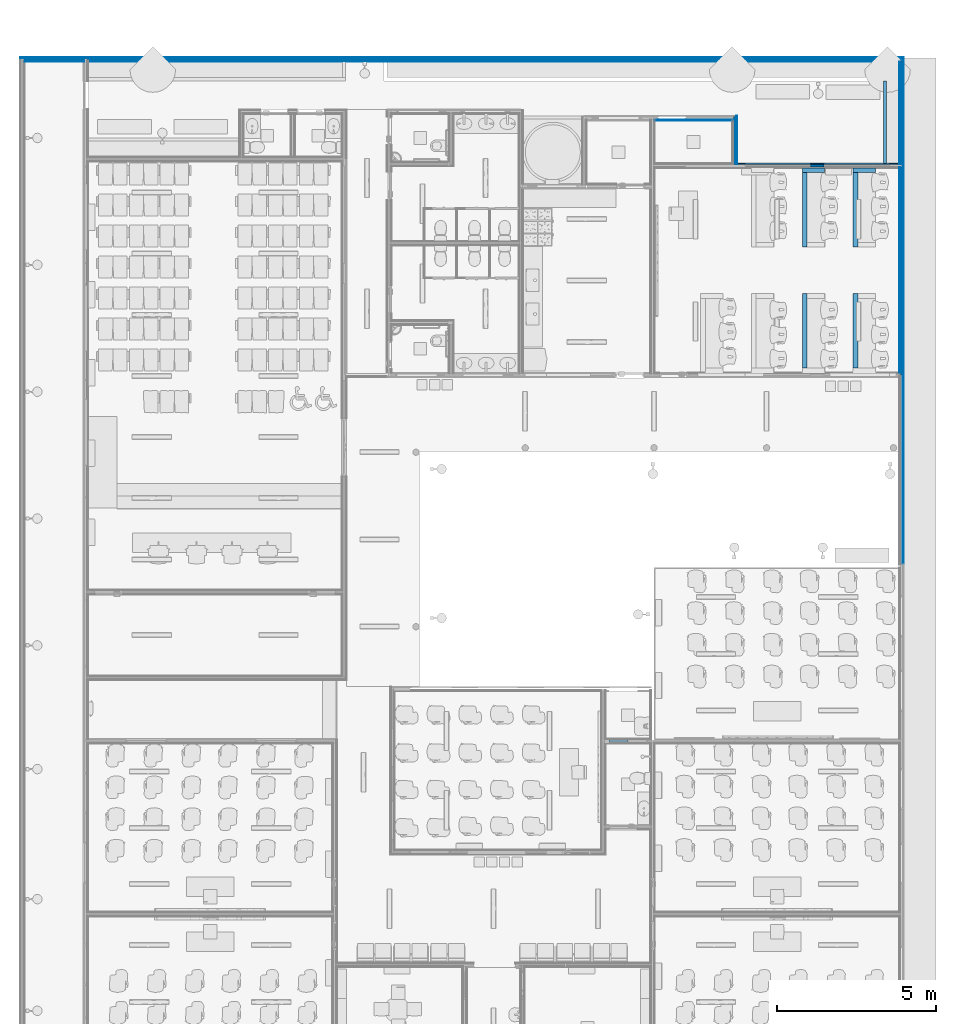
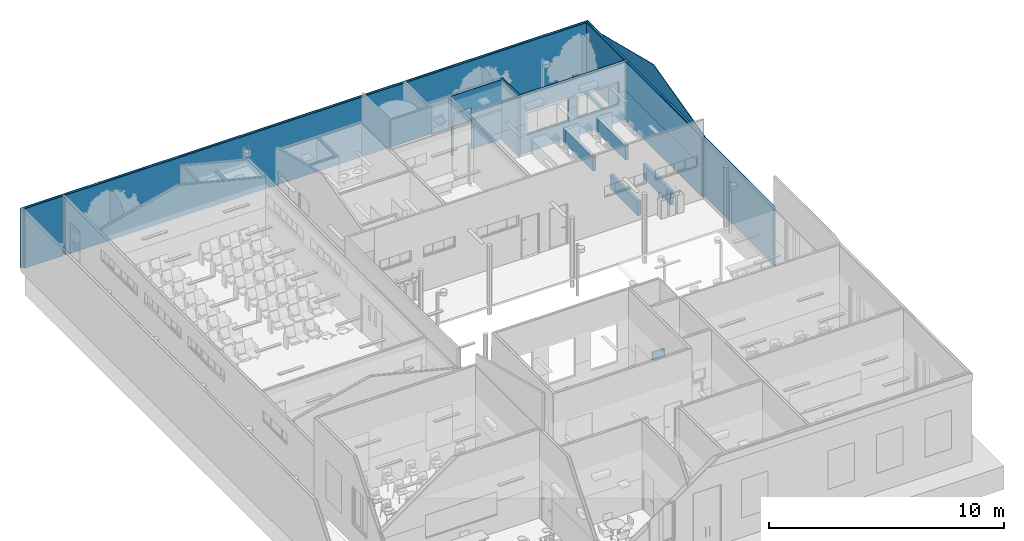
# One storey, part 45 of 155: 26 walls, 18 openings.
"""IFC2X3 building model written with IfcOpenShell, lengths in metres."""

from ifc_helpers import new_model, entity, si_unit, converted_unit, derived_unit, direction, frame, frame_2d, origin, place, context, subcontext, project, spatial, polyline, rectangle, extrude, clip, bounded_halfspace, material, layer, layer_set, layer_usage, type_object, element, save


model = new_model("IFC2X3")

# Units and contexts
model_context = context("Model", 3, precision=1e-05, world=origin(), true_north=direction((6.12303176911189e-17, 1.0)))
body_context = subcontext(model_context, "Body", "Model", "MODEL_VIEW")
ifc_project = project(units=[si_unit("LENGTHUNIT", "METRE"), si_unit("AREAUNIT", "SQUARE_METRE"), si_unit("VOLUMEUNIT", "CUBIC_METRE"), converted_unit("PLANEANGLEUNIT", "DEGREE", entity("IfcRatioMeasure", 0.0174532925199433), si_unit("PLANEANGLEUNIT", "RADIAN"), dimensions=[0, 0, 0, 0, 0, 0, 0]), si_unit("MASSUNIT", "GRAM", prefix="KILO"), derived_unit("MASSDENSITYUNIT", [(si_unit("MASSUNIT", "GRAM", prefix="KILO"), 1), (si_unit("LENGTHUNIT", "METRE"), -3)]), si_unit("TIMEUNIT", "SECOND"), si_unit("FREQUENCYUNIT", "HERTZ"), si_unit("THERMODYNAMICTEMPERATUREUNIT", "DEGREE_CELSIUS"), derived_unit("THERMALTRANSMITTANCEUNIT", [(si_unit("MASSUNIT", "GRAM", prefix="KILO"), 1), (si_unit("THERMODYNAMICTEMPERATUREUNIT", "KELVIN"), -1), (si_unit("TIMEUNIT", "SECOND"), -3)]), derived_unit("VOLUMETRICFLOWRATEUNIT", [(si_unit("LENGTHUNIT", "METRE"), 3), (si_unit("TIMEUNIT", "SECOND"), -1)]), si_unit("ELECTRICCURRENTUNIT", "AMPERE"), si_unit("ELECTRICVOLTAGEUNIT", "VOLT"), si_unit("POWERUNIT", "WATT"), si_unit("FORCEUNIT", "NEWTON", prefix="KILO"), si_unit("ILLUMINANCEUNIT", "LUX"), si_unit("LUMINOUSFLUXUNIT", "LUMEN"), si_unit("LUMINOUSINTENSITYUNIT", "CANDELA"), derived_unit("USERDEFINED", [(si_unit("MASSUNIT", "GRAM", prefix="KILO"), -1), (si_unit("LENGTHUNIT", "METRE"), -2), (si_unit("TIMEUNIT", "SECOND"), 3), (si_unit("LUMINOUSFLUXUNIT", "LUMEN"), 1)]), derived_unit("LINEARVELOCITYUNIT", [(si_unit("LENGTHUNIT", "METRE"), 1), (si_unit("TIMEUNIT", "SECOND"), -1)]), si_unit("PRESSUREUNIT", "PASCAL"), derived_unit("USERDEFINED", [(si_unit("LENGTHUNIT", "METRE"), -2), (si_unit("MASSUNIT", "GRAM", prefix="KILO"), 1), (si_unit("TIMEUNIT", "SECOND"), -2)])], contexts=[model_context])

# Site, building, storey
site_placement = place(None, frame((26.9889013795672, -17.5624287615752, 0.0)))
site = spatial("IfcSite", under=ifc_project, at=site_placement, Name="Default", CompositionType="ELEMENT")
building_placement = place(site_placement, origin())
building = spatial("IfcBuilding", under=site, at=building_placement, Name="C. C. L. Monsenhor Antônio Sampaio", CompositionType="ELEMENT")
storey_placement = place(building_placement, frame((0.0, 0.0, 1.19999999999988)))
storey = spatial("IfcBuildingStorey", under=building, at=storey_placement, Name="Nível 1.2", CompositionType="ELEMENT", Elevation=1.19999999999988)

# Wall
ifc_material_1 = material(Name="ALVENARIA")
ifc_layer_1 = layer(ifc_material_1, 0.09)
ifc_layer_set_1 = layer_set([ifc_layer_1], Name="Parede básica:ENucleo parede 15cm")
ifc_layer_usage_1 = layer_usage(ifc_layer_set_1, "AXIS2", "POSITIVE", -0.045)
wall_type_1 = type_object("IfcWallType", Name="Parede básica:ENucleo parede 15cm", PredefinedType="STANDARD", material=ifc_layer_set_1)
wall_1_placement = place(storey_placement, frame((-14.020552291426, -6.87806634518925, 0.0)))
element("IfcWallStandardCase", 1, at=wall_1_placement, inside=storey, type_object=wall_type_1, material=ifc_layer_usage_1, Name="Parede básica:ENucleo parede 15cm", ObjectType="Parede básica:ENucleo parede 15cm", context=body_context, shape_type="SweptSolid", body=[
    extrude(rectangle(XDim=25.7199999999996, YDim=0.089999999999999, at=frame_2d((12.8599999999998, 0.0), x_axis=(-1.0, 0.0))), origin(), (0.0, 0.0, 1.0), 3.10000000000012),
])

# Wall, openings
ifc_layer_usage_2 = layer_usage(ifc_layer_set_1, "AXIS2", "NEGATIVE", 0.045)
wall_2_placement = place(storey_placement, frame((11.6544477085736, -10.2730663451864, 0.0), z_axis=(0.0, 0.0, 1.0), x_axis=(0.0, -1.0, 0.0)))
wall_2 = element("IfcWallStandardCase", 2, at=wall_2_placement, inside=storey, type_object=wall_type_1, material=ifc_layer_usage_2, Name="Parede básica:ENucleo parede 15cm", ObjectType="Parede básica:ENucleo parede 15cm", context=body_context, shape_type="SweptSolid", body=[
    extrude(rectangle(XDim=6.5550000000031, YDim=0.0900000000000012, at=frame_2d((3.27750000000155, 3.81639164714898e-17), x_axis=(-1.0, 0.0))), origin(), (0.0, 0.0, 1.0), 3.10000000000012),
])
opening_1_placement = place(wall_2_placement, origin())
element("IfcOpeningElement", 3, at=opening_1_placement, cuts=wall_2, Name="Parede básica:ENucleo parede 15cm", ObjectType="Opening", context=body_context, shape_type="SweptSolid", body=[
    extrude(rectangle(XDim=2.0, YDim=1.30000000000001, at=frame_2d((1.66533453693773e-16, 0.0), x_axis=(1.0, 0.0))), frame((16.5099999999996, -1.56899999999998, 2.0), z_axis=(0.0, 1.0, 0.0), x_axis=(0.0, 0.0, 1.0)), (0.0, 0.0, 1.0), 3.048),
])
opening_2_placement = place(wall_2_placement, origin())
element("IfcOpeningElement", 4, at=opening_2_placement, cuts=wall_2, Name="Parede básica:ENucleo parede 15cm", ObjectType="Opening", context=body_context, shape_type="SweptSolid", body=[
    extrude(rectangle(XDim=2.0, YDim=1.30000000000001, at=frame_2d((1.66533453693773e-16, 0.0), x_axis=(1.0, 0.0))), frame((14.1599999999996, -1.56899999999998, 2.0), z_axis=(0.0, 1.0, 0.0), x_axis=(0.0, 0.0, 1.0)), (0.0, 0.0, 1.0), 3.048),
])

ifc_layer_usage_3 = layer_usage(ifc_layer_set_1, "AXIS2", "NEGATIVE", 0.045)
wall_3_placement = place(storey_placement, frame((11.6544477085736, -10.1830663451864, 0.0), z_axis=(0.0, 0.0, 1.0), x_axis=(0.0, 1.0, 0.0)))
wall_3 = element("IfcWallStandardCase", 5, at=wall_3_placement, inside=storey, type_object=wall_type_1, material=ifc_layer_usage_3, Name="Parede básica:ENucleo parede 15cm", ObjectType="Parede básica:ENucleo parede 15cm", context=body_context, shape_type="SweptSolid", body=[
    extrude(rectangle(XDim=3.25999999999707, YDim=0.0900000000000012, at=frame_2d((1.62999999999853, 0.0), x_axis=(-1.0, 0.0))), origin(), (0.0, 0.0, 1.0), 3.10000000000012),
])
opening_3_placement = place(wall_3_placement, origin())
element("IfcOpeningElement", 6, at=opening_3_placement, cuts=wall_3, Name="Parede básica:ENucleo parede 15cm", ObjectType="Opening", context=body_context, shape_type="SweptSolid", body=[
    extrude(rectangle(XDim=2.0, YDim=1.30000000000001, at=frame_2d((0.0, -3.88578058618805e-16), x_axis=(0.0, 1.0))), frame((-16.5999999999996, -1.47900000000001, 2.0), z_axis=(0.0, 1.0, 0.0), x_axis=(-1.0, 0.0, 0.0)), (0.0, 0.0, 1.0), 3.048),
])
opening_4_placement = place(wall_3_placement, origin())
element("IfcOpeningElement", 7, at=opening_4_placement, cuts=wall_3, Name="Parede básica:ENucleo parede 15cm", ObjectType="Opening", context=body_context, shape_type="SweptSolid", body=[
    extrude(rectangle(XDim=2.0, YDim=1.30000000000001, at=frame_2d((0.0, -3.88578058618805e-16), x_axis=(0.0, 1.0))), frame((-14.2499999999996, -1.47900000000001, 2.0), z_axis=(0.0, 1.0, 0.0), x_axis=(-1.0, 0.0, 0.0)), (0.0, 0.0, 1.0), 3.048),
])

# Walls
ifc_layer_usage_4 = layer_usage(ifc_layer_set_1, "AXIS2", "POSITIVE", -0.045)
wall_4_placement = place(storey_placement, frame((-16.0204980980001, -6.87806634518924, 0.0)))
element("IfcWallStandardCase", 8, at=wall_4_placement, inside=storey, type_object=wall_type_1, material=ifc_layer_usage_4, Name="Parede básica:ENucleo parede 15cm", ObjectType="Parede básica:ENucleo parede 15cm", context=body_context, shape_type="SweptSolid", body=[
    extrude(rectangle(XDim=1.90994580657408, YDim=0.089999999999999, at=frame_2d((0.954972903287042, -1.49186218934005e-16), x_axis=(-1.0, 0.0))), origin(), (0.0, 0.0, 1.0), 3.10000000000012),
])
ifc_layer_usage_5 = layer_usage(ifc_layer_set_1, "AXIS2", "POSITIVE", -0.045)
wall_5_placement = place(storey_placement, frame((8.78461597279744, -10.2280663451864, 0.965000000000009)))
element("IfcWallStandardCase", 9, at=wall_5_placement, inside=storey, type_object=wall_type_1, material=ifc_layer_usage_5, Name="Parede básica:ENucleo parede 15cm", ObjectType="Parede básica:ENucleo parede 15cm", context=body_context, shape_type="SweptSolid", body=[
    extrude(rectangle(XDim=0.419831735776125, YDim=0.089999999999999, at=frame_2d((-5.41233724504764e-16, 0.0), x_axis=(1.0, 0.0))), frame((0.209915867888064, 0.0, 0.0)), (0.0, 0.0, 1.0), 1.17000000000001),
])
ifc_layer_usage_6 = layer_usage(ifc_layer_set_1, "AXIS2", "POSITIVE", -0.045)
wall_6_placement = place(storey_placement, frame((2.42944770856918, -28.378066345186, 1.8)))
element("IfcWallStandardCase", 10, at=wall_6_placement, inside=storey, type_object=wall_type_1, material=ifc_layer_usage_6, Name="Parede básica:ENucleo parede 15cm", ObjectType="Parede básica:ENucleo parede 15cm", context=body_context, shape_type="SweptSolid", body=[
    extrude(rectangle(XDim=0.6, YDim=0.0899999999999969, at=frame_2d((0.3, -1.18308141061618e-15), x_axis=(-1.0, 0.0))), origin(), (0.0, 0.0, 1.0), 0.400000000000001),
])
ifc_layer_usage_7 = layer_usage(ifc_layer_set_1, "AXIS2", "NEGATIVE", 0.045)
wall_7_placement = place(storey_placement, frame((6.39444770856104, -8.68306634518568, 0.0), z_axis=(0.0, 0.0, 1.0), x_axis=(0.0, -1.0, 0.0)))
element("IfcWallStandardCase", 11, at=wall_7_placement, inside=storey, type_object=wall_type_1, material=ifc_layer_usage_7, Name="Parede básica:ENucleo parede 15cm", ObjectType="Parede básica:ENucleo parede 15cm", context=body_context, shape_type="SweptSolid", body=[
    extrude(rectangle(XDim=1.5000000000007, YDim=0.089999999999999, at=frame_2d((0.75000000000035, 3.46944695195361e-17), x_axis=(-1.0, 0.0))), origin(), (0.0, 0.0, 1.0), 3.10000000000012),
])

# Wall, openings
ifc_material_2 = material(Name=".CERÂMICA 10x10 BRANCA")
ifc_layer_2 = layer(ifc_material_2, 0.0035)
ifc_material_3 = material(Name="Argamassa Colante")
ifc_layer_3 = layer(ifc_material_3, 0.02)
ifc_material_4 = material(Name="4")
ifc_layer_4 = layer(ifc_material_4, 0.0015)
ifc_material_5 = material(Name="3")
ifc_layer_5 = layer(ifc_material_5, 0.005)
ifc_layer_set_2 = layer_set([ifc_layer_2, ifc_layer_3, ifc_layer_4, ifc_layer_5], Name="Parede básica:ECeramica branca 10x10cm")
ifc_layer_usage_8 = layer_usage(ifc_layer_set_2, "AXIS2", "NEGATIVE", 0.015)
wall_type_2 = type_object("IfcWallType", Name="Parede básica:ECeramica branca 10x10cm", PredefinedType="STANDARD", material=ifc_layer_set_2)
wall_8_placement = place(storey_placement, frame((11.5944477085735, -16.7530663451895, 0.0), z_axis=(0.0, 0.0, 1.0), x_axis=(0.0, 1.0, 0.0)))
wall_8 = element("IfcWallStandardCase", 12, at=wall_8_placement, inside=storey, type_object=wall_type_2, material=ifc_layer_usage_8, Name="Parede básica:ECeramica branca 10x10cm", ObjectType="Parede básica:ECeramica branca 10x10cm", context=body_context, shape_type="SweptSolid", body=[
    extrude(rectangle(XDim=6.4800000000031, YDim=0.0300000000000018, at=frame_2d((3.24000000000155, 0.0), x_axis=(-1.0, 0.0))), origin(), (0.0, 0.0, 1.0), 1.6),
])
opening_5_placement = place(wall_8_placement, origin())
element("IfcOpeningElement", 13, at=opening_5_placement, cuts=wall_8, Name="Parede básica:ECeramica branca 10x10cm", ObjectType="Opening", context=body_context, shape_type="SweptSolid", body=[
    extrude(rectangle(XDim=2.0, YDim=1.30000000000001, at=frame_2d((0.0, -3.88578058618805e-16), x_axis=(0.0, 1.0))), frame((-10.0299999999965, -1.53900000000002, 2.0), z_axis=(0.0, 1.0, 0.0), x_axis=(-1.0, 0.0, 0.0)), (0.0, 0.0, 1.0), 3.048),
])
opening_6_placement = place(wall_8_placement, origin())
element("IfcOpeningElement", 14, at=opening_6_placement, cuts=wall_8, Name="Parede básica:ECeramica branca 10x10cm", ObjectType="Opening", context=body_context, shape_type="SweptSolid", body=[
    extrude(rectangle(XDim=2.0, YDim=1.30000000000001, at=frame_2d((0.0, -3.88578058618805e-16), x_axis=(0.0, 1.0))), frame((-7.67999999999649, -1.53900000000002, 2.0), z_axis=(0.0, 1.0, 0.0), x_axis=(-1.0, 0.0, 0.0)), (0.0, 0.0, 1.0), 3.048),
])

# Wall, opening
ifc_layer_usage_9 = layer_usage(ifc_layer_set_2, "AXIS2", "POSITIVE", -0.015)
wall_9_placement = place(storey_placement, frame((3.87961597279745, -8.78806634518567, 0.0)))
wall_9 = element("IfcWallStandardCase", 15, at=wall_9_placement, inside=storey, type_object=wall_type_2, material=ifc_layer_usage_9, Name="Parede básica:ECeramica branca 10x10cm", ObjectType="Parede básica:ECeramica branca 10x10cm", context=body_context, shape_type="SweptSolid", body=[
    extrude(rectangle(XDim=2.46983173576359, YDim=0.0299999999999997, at=frame_2d((1.23491586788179, 0.0), x_axis=(-1.0, 0.0))), origin(), (0.0, 0.0, 1.0), 1.5),
])
opening_7_placement = place(wall_9_placement, origin())
element("IfcOpeningElement", 16, at=opening_7_placement, cuts=wall_9, Name="Parede básica:ECeramica branca 10x10cm", ObjectType="Opening", context=body_context, shape_type="SweptSolid", body=[
    extrude(rectangle(XDim=2.15999999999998, YDim=0.88, at=frame_2d((2.77555756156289e-16, 0.0), x_axis=(0.0, 1.0))), frame((0.540000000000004, -1.509, 1.07999999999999), z_axis=(0.0, 1.0, 0.0), x_axis=(-1.0, 0.0, 0.0)), (0.0, 0.0, 1.0), 3.048),
])

# Wall, openings
ifc_layer_usage_10 = layer_usage(ifc_layer_set_2, "AXIS2", "POSITIVE", -0.015)
wall_10_placement = place(storey_placement, frame((3.87961597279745, -8.78806634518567, 1.6)))
wall_10 = element("IfcWallStandardCase", 17, at=wall_10_placement, inside=storey, type_object=wall_type_2, material=ifc_layer_usage_10, Name="Parede básica:ECeramica branca 10x10cm", ObjectType="Parede básica:ECeramica branca 10x10cm", context=body_context, shape_type="SweptSolid", body=[
    extrude(rectangle(XDim=2.46983173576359, YDim=0.0299999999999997, at=frame_2d((1.23491586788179, 0.0), x_axis=(-1.0, 0.0))), origin(), (0.0, 0.0, 1.0), 1.50000000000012),
])
opening_8_placement = place(wall_10_placement, origin())
element("IfcOpeningElement", 18, at=opening_8_placement, cuts=wall_10, Name="Parede básica:ECeramica branca 10x10cm", ObjectType="Opening", context=body_context, shape_type="SweptSolid", body=[
    extrude(rectangle(XDim=2.15999999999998, YDim=0.88, at=frame_2d((2.77555756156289e-16, 0.0), x_axis=(0.0, 1.0))), frame((0.540000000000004, -1.509, -0.520000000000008), z_axis=(0.0, 1.0, 0.0), x_axis=(-1.0, 0.0, 0.0)), (0.0, 0.0, 1.0), 3.048),
])
opening_9_placement = place(wall_10_placement, origin())
element("IfcOpeningElement", 19, at=opening_9_placement, cuts=wall_10, Name="Parede básica:ECeramica branca 10x10cm", ObjectType="Opening", context=body_context, shape_type="SweptSolid", body=[
    extrude(rectangle(XDim=0.570000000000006, YDim=1.56999999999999, at=frame_2d((-1.11022302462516e-16, 2.77555756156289e-16), x_axis=(0.0, 1.0))), frame((-1.20016826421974, -1.509, 0.450000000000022), z_axis=(0.0, 1.0, 0.0), x_axis=(-1.0, 0.0, 0.0)), (0.0, 0.0, 1.0), 3.048),
])

ifc_material_6 = material(Name="Acabamento Branco")
ifc_layer_6 = layer(ifc_material_6, 0.0035)
ifc_material_7 = material(Name="Massa corrida")
ifc_layer_7 = layer(ifc_material_7, 0.02)
ifc_layer_8 = layer(ifc_material_4, 0.0015)
ifc_layer_9 = layer(ifc_material_5, 0.005)
ifc_layer_set_3 = layer_set([ifc_layer_6, ifc_layer_7, ifc_layer_8, ifc_layer_9], Name="Parede básica:EPintura Branca")
ifc_layer_usage_11 = layer_usage(ifc_layer_set_3, "AXIS2", "NEGATIVE", 0.015)
wall_type_3 = type_object("IfcWallType", Name="Parede básica:EPintura Branca", PredefinedType="STANDARD", material=ifc_layer_set_3)
wall_11_placement = place(storey_placement, frame((11.5944477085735, -16.7530663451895, 1.6), z_axis=(0.0, 0.0, 1.0), x_axis=(0.0, 1.0, 0.0)))
wall_11 = element("IfcWallStandardCase", 20, at=wall_11_placement, inside=storey, type_object=wall_type_3, material=ifc_layer_usage_11, Name="Parede básica:EPintura Branca", ObjectType="Parede básica:EPintura Branca", context=body_context, shape_type="SweptSolid", body=[
    extrude(rectangle(XDim=6.4800000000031, YDim=0.0300000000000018, at=frame_2d((3.24000000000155, 0.0), x_axis=(-1.0, 0.0))), origin(), (0.0, 0.0, 1.0), 1.50000000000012),
])
opening_10_placement = place(wall_11_placement, origin())
element("IfcOpeningElement", 21, at=opening_10_placement, cuts=wall_11, Name="Parede básica:EPintura Branca", ObjectType="Opening", context=body_context, shape_type="SweptSolid", body=[
    extrude(rectangle(XDim=2.0, YDim=1.30000000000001, at=frame_2d((0.0, -3.88578058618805e-16), x_axis=(0.0, 1.0))), frame((-10.0299999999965, -1.53900000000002, 0.400000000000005), z_axis=(0.0, 1.0, 0.0), x_axis=(-1.0, 0.0, 0.0)), (0.0, 0.0, 1.0), 3.048),
])
opening_11_placement = place(wall_11_placement, origin())
element("IfcOpeningElement", 22, at=opening_11_placement, cuts=wall_11, Name="Parede básica:EPintura Branca", ObjectType="Opening", context=body_context, shape_type="SweptSolid", body=[
    extrude(rectangle(XDim=2.0, YDim=1.30000000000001, at=frame_2d((0.0, -3.88578058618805e-16), x_axis=(0.0, 1.0))), frame((-7.67999999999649, -1.53900000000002, 0.400000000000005), z_axis=(0.0, 1.0, 0.0), x_axis=(-1.0, 0.0, 0.0)), (0.0, 0.0, 1.0), 3.048),
])

# Walls
ifc_material_8 = material(Name="Acabamento amarelo")
ifc_layer_10 = layer(ifc_material_8, 0.0035)
ifc_layer_11 = layer(ifc_material_7, 0.02)
ifc_layer_12 = layer(ifc_material_4, 0.0015)
ifc_layer_13 = layer(ifc_material_5, 0.005)
ifc_layer_set_4 = layer_set([ifc_layer_10, ifc_layer_11, ifc_layer_12, ifc_layer_13], Name="Parede básica:EPintura amarela")
ifc_layer_usage_12 = layer_usage(ifc_layer_set_4, "AXIS2", "POSITIVE", -0.015)
wall_type_4 = type_object("IfcWallType", Name="Parede básica:EPintura amarela", PredefinedType="STANDARD", material=ifc_layer_set_4)
wall_12_placement = place(storey_placement, frame((11.6994477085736, -6.81806634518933, 0.0), z_axis=(0.0, 0.0, 1.0), x_axis=(-1.0, 0.0, 0.0)))
element("IfcWallStandardCase", 23, at=wall_12_placement, inside=storey, type_object=wall_type_4, material=ifc_layer_usage_12, Name="Parede básica:EPintura amarela", ObjectType="Parede básica:EPintura amarela", context=body_context, shape_type="SweptSolid", body=[
    extrude(rectangle(XDim=27.8399458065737, YDim=0.0299999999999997, at=frame_2d((13.9199729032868, 4.85722573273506e-17), x_axis=(-1.0, 0.0))), origin(), (0.0, 0.0, 1.0), 3.10000000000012),
])
ifc_layer_usage_13 = layer_usage(ifc_layer_set_4, "AXIS2", "POSITIVE", -0.015)
wall_13_placement = place(storey_placement, frame((-15.9904980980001, -6.93806634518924, 0.0)))
element("IfcWallStandardCase", 24, at=wall_13_placement, inside=storey, type_object=wall_type_4, material=ifc_layer_usage_13, Name="Parede básica:EPintura amarela", ObjectType="Parede básica:EPintura amarela", context=body_context, shape_type="SweptSolid", body=[
    extrude(rectangle(XDim=1.87994580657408, YDim=0.0299999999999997, at=frame_2d((0.939972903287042, 0.0), x_axis=(-1.0, 0.0))), origin(), (0.0, 0.0, 1.0), 3.10000000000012),
])
ifc_layer_usage_14 = layer_usage(ifc_layer_set_4, "AXIS2", "POSITIVE", -0.015)
wall_14_placement = place(storey_placement, frame((-13.990552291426, -6.93806634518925, 0.0)))
element("IfcWallStandardCase", 25, at=wall_14_placement, inside=storey, type_object=wall_type_4, material=ifc_layer_usage_14, Name="Parede básica:EPintura amarela", ObjectType="Parede básica:EPintura amarela", context=body_context, shape_type="SweptSolid", body=[
    extrude(rectangle(XDim=25.5999999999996, YDim=0.0299999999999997, at=frame_2d((12.7999999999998, 0.0), x_axis=(-1.0, 0.0))), origin(), (0.0, 0.0, 1.0), 3.10000000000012),
])

# Wall, openings
ifc_layer_usage_15 = layer_usage(ifc_layer_set_4, "AXIS2", "POSITIVE", -0.015)
wall_15_placement = place(storey_placement, frame((11.5944477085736, -6.95306634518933, 0.0), z_axis=(0.0, 0.0, 1.0), x_axis=(0.0, -1.0, 0.0)))
wall_15 = element("IfcWallStandardCase", 26, at=wall_15_placement, inside=storey, type_object=wall_type_4, material=ifc_layer_usage_15, Name="Parede básica:EPintura amarela", ObjectType="Parede básica:EPintura amarela", context=body_context, shape_type="SweptSolid", body=[
    extrude(rectangle(XDim=3.22999999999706, YDim=0.0300000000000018, at=frame_2d((1.61499999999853, 8.67361737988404e-19), x_axis=(-1.0, 0.0))), origin(), (0.0, 0.0, 1.0), 3.10000000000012),
])
opening_12_placement = place(wall_15_placement, origin())
element("IfcOpeningElement", 27, at=opening_12_placement, cuts=wall_15, Name="Parede básica:EPintura amarela", ObjectType="Opening", context=body_context, shape_type="SweptSolid", body=[
    extrude(rectangle(XDim=2.0, YDim=1.30000000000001, at=frame_2d((1.66533453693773e-16, 0.0), x_axis=(1.0, 0.0))), frame((19.8299999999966, -1.50899999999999, 2.0), z_axis=(0.0, 1.0, 0.0), x_axis=(0.0, 0.0, 1.0)), (0.0, 0.0, 1.0), 3.048),
])
opening_13_placement = place(wall_15_placement, origin())
element("IfcOpeningElement", 28, at=opening_13_placement, cuts=wall_15, Name="Parede básica:EPintura amarela", ObjectType="Opening", context=body_context, shape_type="SweptSolid", body=[
    extrude(rectangle(XDim=2.0, YDim=1.30000000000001, at=frame_2d((1.66533453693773e-16, 0.0), x_axis=(1.0, 0.0))), frame((17.4799999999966, -1.50899999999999, 2.0), z_axis=(0.0, 1.0, 0.0), x_axis=(0.0, 0.0, 1.0)), (0.0, 0.0, 1.0), 3.048),
])

ifc_layer_usage_16 = layer_usage(ifc_layer_set_4, "AXIS2", "POSITIVE", -0.015)
wall_16_placement = place(storey_placement, frame((11.5794477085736, -10.1680663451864, 0.0), z_axis=(0.0, 0.0, 1.0), x_axis=(-1.0, 0.0, 0.0)))
wall_16 = element("IfcWallStandardCase", 29, at=wall_16_placement, inside=storey, type_object=wall_type_4, material=ifc_layer_usage_16, Name="Parede básica:EPintura amarela", ObjectType="Parede básica:EPintura amarela", context=body_context, shape_type="SweptSolid", body=[
    extrude(rectangle(XDim=5.11000000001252, YDim=0.0300000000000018, at=frame_2d((2.55500000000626, -5.63785129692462e-17), x_axis=(-1.0, 0.0))), origin(), (0.0, 0.0, 1.0), 3.10000000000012),
])
opening_14_placement = place(wall_16_placement, origin())
element("IfcOpeningElement", 30, at=opening_14_placement, cuts=wall_16, Name="Parede básica:EPintura amarela", ObjectType="Opening", context=body_context, shape_type="SweptSolid", body=[
    extrude(rectangle(XDim=1.17, YDim=2.07, at=frame_2d((0.0, 5.55111512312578e-16), x_axis=(1.0, 0.0))), frame((3.82983173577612, -1.50899999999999, 1.55000000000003), z_axis=(0.0, 1.0, 0.0), x_axis=(0.0, 0.0, 1.0)), (0.0, 0.0, 1.0), 3.048),
])
opening_15_placement = place(wall_16_placement, origin())
element("IfcOpeningElement", 31, at=opening_15_placement, cuts=wall_16, Name="Parede básica:EPintura amarela", ObjectType="Opening", context=body_context, shape_type="SweptSolid", body=[
    extrude(rectangle(XDim=1.17, YDim=2.07, at=frame_2d((-5.55111512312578e-16, 0.0), x_axis=(0.0, 1.0))), frame((1.34, -1.41899999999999, 1.55000000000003), z_axis=(0.0, 1.0, 0.0), x_axis=(-1.0, 0.0, 0.0)), (0.0, 0.0, 1.0), 3.048),
])

ifc_layer_usage_17 = layer_usage(ifc_layer_set_4, "AXIS2", "POSITIVE", -0.015)
wall_17_placement = place(storey_placement, frame((11.7144477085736, -22.7830663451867, 0.0), z_axis=(0.0, 0.0, 1.0), x_axis=(0.0, 1.0, 0.0)))
wall_17 = element("IfcWallStandardCase", 32, at=wall_17_placement, inside=storey, type_object=wall_type_4, material=ifc_layer_usage_17, Name="Parede básica:EPintura amarela", ObjectType="Parede básica:EPintura amarela", context=body_context, shape_type="Clipping", body=[
    clip(clip(clip(clip(extrude(rectangle(XDim=15.9799999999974, YDim=0.0300000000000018, at=frame_2d((7.98999999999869, -9.8879238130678e-17), x_axis=(-1.0, 0.0))), origin(), (0.0, 0.0, 1.0), 4.21182764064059), bounded_halfspace(frame((10.3699999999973, -0.0149999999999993, 4.21182764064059), z_axis=(0.242535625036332, 0.0, 0.970142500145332), x_axis=(0.0, 1.0, 0.0)), False, frame((10.3699999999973, -0.0149999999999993, 4.21182764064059)), polyline([(0.0, 0.0), (4.48574643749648, 0.0), (4.48574643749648, 0.0300000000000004), (0.0, 0.0299999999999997), (0.0, 0.0)]))), bounded_halfspace(frame((5.88425356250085, -0.0149999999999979, 3.09039103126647), z_axis=(-0.242535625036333, 0.0, 0.970142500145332), x_axis=(0.0, -1.0, 0.0)), False, frame((5.88425356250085, -0.0149999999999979, 3.09039103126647)), polyline([(0.0, 0.0), (4.48574643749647, 0.0), (4.48574643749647, 0.0299999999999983), (0.0, 0.0299999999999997), (0.0, 0.0)]))), bounded_halfspace(frame((14.8557464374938, -0.0149999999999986, 3.10000000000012), z_axis=(0.0, 0.0, 1.0), x_axis=(0.0, 1.0, 0.0)), False, frame((14.8557464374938, -0.0149999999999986, 3.10000000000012)), polyline([(0.0, 0.0), (1.12425356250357, 0.0), (1.12425356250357, 0.0299999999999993), (1.09425356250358, 0.0299999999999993), (1.00425356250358, 0.0299999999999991), (0.0, 0.0299999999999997), (0.0, 0.0)]))), bounded_halfspace(frame((0.0, -0.0149999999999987, 3.10000000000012), z_axis=(0.0, 0.0, 1.0), x_axis=(0.0, 1.0, 0.0)), False, frame((0.0, -0.0149999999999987, 3.10000000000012)), polyline([(0.0, 0.0), (5.88425356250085, 0.0), (5.88425356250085, 0.0300000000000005), (0.0, 0.0299999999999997), (0.0, 0.0)]))),
])
opening_16_placement = place(wall_17_placement, origin())
element("IfcOpeningElement", 33, at=opening_16_placement, cuts=wall_17, Name="Parede básica:EPintura amarela", ObjectType="Opening", context=body_context, shape_type="SweptSolid", body=[
    extrude(rectangle(XDim=2.0, YDim=1.30000000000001, at=frame_2d((0.0, -3.88578058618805e-16), x_axis=(0.0, 1.0))), frame((-4.0, -1.419, 2.0), z_axis=(0.0, 1.0, 0.0), x_axis=(-1.0, 0.0, 0.0)), (0.0, 0.0, 1.0), 3.048),
])
opening_17_placement = place(wall_17_placement, origin())
element("IfcOpeningElement", 34, at=opening_17_placement, cuts=wall_17, Name="Parede básica:EPintura amarela", ObjectType="Opening", context=body_context, shape_type="SweptSolid", body=[
    extrude(rectangle(XDim=2.0, YDim=1.30000000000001, at=frame_2d((0.0, -3.88578058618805e-16), x_axis=(0.0, 1.0))), frame((-1.64999999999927, -1.419, 2.0), z_axis=(0.0, 1.0, 0.0), x_axis=(-1.0, 0.0, 0.0)), (0.0, 0.0, 1.0), 3.048),
])

# Walls
ifc_layer_usage_18 = layer_usage(ifc_layer_set_4, "AXIS2", "NEGATIVE", 0.015)
wall_18_placement = place(storey_placement, frame((6.45444770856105, -8.65306634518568, -0.151305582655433), z_axis=(0.0, 0.0, 1.0), x_axis=(0.0, -1.0, 0.0)))
element("IfcWallStandardCase", 35, at=wall_18_placement, inside=storey, type_object=wall_type_4, material=ifc_layer_usage_18, Name="Parede básica:EPintura amarela", ObjectType="Parede básica:EPintura amarela", context=body_context, shape_type="SweptSolid", body=[
    extrude(rectangle(XDim=1.53000000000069, YDim=0.0299999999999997, at=frame_2d((0.765000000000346, 6.76542155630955e-17), x_axis=(-1.0, 0.0))), origin(), (0.0, 0.0, 1.0), 3.25130558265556),
])
ifc_material_9 = material(Name=".Pintura branca")
ifc_layer_14 = layer(ifc_material_9, 0.005)
ifc_material_10 = material(Name=".Alvenaria")
ifc_layer_15 = layer(ifc_material_10, 0.09)
ifc_layer_16 = layer(ifc_material_9, 0.005)
ifc_layer_set_5 = layer_set([ifc_layer_14, ifc_layer_15, ifc_layer_16], Name="Parede básica:10cm - Canteiros")
ifc_layer_usage_19 = layer_usage(ifc_layer_set_5, "AXIS2", "NEGATIVE", 0.05)
wall_type_5 = type_object("IfcWallType", Name="Parede básica:10cm - Canteiros", PredefinedType="STANDARD", material=ifc_layer_set_5)
wall_19_placement = place(storey_placement, frame((11.1294477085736, -10.1530663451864, 0.0), z_axis=(0.0, 0.0, 1.0), x_axis=(0.0, 1.0, 0.0)))
element("IfcWallStandardCase", 36, at=wall_19_placement, inside=storey, type_object=wall_type_5, material=ifc_layer_usage_19, Name="Parede básica:10cm - Canteiros", ObjectType="Parede básica:10cm - Canteiros", context=body_context, shape_type="SweptSolid", body=[
    extrude(rectangle(XDim=2.59999999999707, YDim=0.0999999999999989, at=frame_2d((1.29999999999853, 0.0), x_axis=(-1.0, 0.0))), origin(), (0.0, 0.0, 1.0), 0.2),
])
ifc_layer_17 = layer(ifc_material_2, 0.005)
ifc_material_11 = material(Name="Argamassa Cola")
ifc_layer_18 = layer(ifc_material_11, 0.0175)
ifc_material_12 = material(Name="Tijolo, comum, marrom")
ifc_layer_19 = layer(ifc_material_12, 0.105)
ifc_layer_20 = layer(ifc_material_11, 0.0175)
ifc_layer_21 = layer(ifc_material_2, 0.005)
ifc_layer_set_6 = layer_set([ifc_layer_17, ifc_layer_18, ifc_layer_19, ifc_layer_20, ifc_layer_21], Name="Parede básica:INTERNA .15 - REVESTIMENTO BRANCO")
ifc_layer_usage_20 = layer_usage(ifc_layer_set_6, "AXIS2", "POSITIVE", -0.075)
wall_type_6 = type_object("IfcWallType", Name="Parede básica:INTERNA .15 - REVESTIMENTO BRANCO", PredefinedType="STANDARD", material=ifc_layer_set_6)
wall_20_placement = place(storey_placement, frame((10.8294477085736, -10.3730663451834, 0.0), z_axis=(0.0, 0.0, 1.0), x_axis=(-1.0, 0.0, 0.0)))
element("IfcWallStandardCase", 37, at=wall_20_placement, inside=storey, type_object=wall_type_6, material=ifc_layer_usage_20, Name="Parede básica:INTERNA .15 - REVESTIMENTO BRANCO", ObjectType="Parede básica:INTERNA .15 - REVESTIMENTO BRANCO", context=body_context, shape_type="SweptSolid", body=[
    extrude(rectangle(XDim=0.702500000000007, YDim=0.150000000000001, at=frame_2d((0.351250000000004, 1.38777878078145e-16), x_axis=(-1.0, 0.0))), origin(), (0.0, 0.0, 1.0), 0.73),
])
ifc_layer_usage_21 = layer_usage(ifc_layer_set_6, "AXIS2", "POSITIVE", -0.075)
wall_21_placement = place(storey_placement, frame((10.2019477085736, -10.4480663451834, 0.0), z_axis=(0.0, 0.0, 1.0), x_axis=(0.0, -1.0, 0.0)))
element("IfcWallStandardCase", 38, at=wall_21_placement, inside=storey, type_object=wall_type_6, material=ifc_layer_usage_21, Name="Parede básica:INTERNA .15 - REVESTIMENTO BRANCO", ObjectType="Parede básica:INTERNA .15 - REVESTIMENTO BRANCO", context=body_context, shape_type="SweptSolid", body=[
    extrude(rectangle(XDim=2.35000000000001, YDim=0.150000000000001, at=frame_2d((1.175, 0.0), x_axis=(-1.0, 0.0))), origin(), (0.0, 0.0, 1.0), 0.73),
])
ifc_layer_usage_22 = layer_usage(ifc_layer_set_6, "AXIS2", "POSITIVE", -0.075)
wall_22_placement = place(storey_placement, frame((9.22444770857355, -10.3730663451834, 0.0), z_axis=(0.0, 0.0, 1.0), x_axis=(-1.0, 0.0, 0.0)))
element("IfcWallStandardCase", 39, at=wall_22_placement, inside=storey, type_object=wall_type_6, material=ifc_layer_usage_22, Name="Parede básica:INTERNA .15 - REVESTIMENTO BRANCO", ObjectType="Parede básica:INTERNA .15 - REVESTIMENTO BRANCO", context=body_context, shape_type="SweptSolid", body=[
    extrude(rectangle(XDim=0.699999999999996, YDim=0.150000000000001, at=frame_2d((0.349999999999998, 1.38777878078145e-16), x_axis=(-1.0, 0.0))), origin(), (0.0, 0.0, 1.0), 0.73),
])
ifc_layer_usage_23 = layer_usage(ifc_layer_set_6, "AXIS2", "POSITIVE", -0.075)
wall_23_placement = place(storey_placement, frame((8.59944770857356, -10.4480663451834, 0.0), z_axis=(0.0, 0.0, 1.0), x_axis=(0.0, -1.0, 0.0)))
element("IfcWallStandardCase", 40, at=wall_23_placement, inside=storey, type_object=wall_type_6, material=ifc_layer_usage_23, Name="Parede básica:INTERNA .15 - REVESTIMENTO BRANCO", ObjectType="Parede básica:INTERNA .15 - REVESTIMENTO BRANCO", context=body_context, shape_type="SweptSolid", body=[
    extrude(rectangle(XDim=2.35000000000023, YDim=0.150000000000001, at=frame_2d((1.17500000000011, 0.0), x_axis=(-1.0, 0.0))), origin(), (0.0, 0.0, 1.0), 0.73),
])
ifc_layer_usage_24 = layer_usage(ifc_layer_set_6, "AXIS2", "NEGATIVE", 0.075)
wall_24_placement = place(storey_placement, frame((10.2019477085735, -16.6130663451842, 0.0), z_axis=(0.0, 0.0, 1.0), x_axis=(0.0, 1.0, 0.0)))
element("IfcWallStandardCase", 41, at=wall_24_placement, inside=storey, type_object=wall_type_6, material=ifc_layer_usage_24, Name="Parede básica:INTERNA .15 - REVESTIMENTO BRANCO", ObjectType="Parede básica:INTERNA .15 - REVESTIMENTO BRANCO", context=body_context, shape_type="SweptSolid", body=[
    extrude(rectangle(XDim=2.35000000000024, YDim=0.150000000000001, at=frame_2d((1.17500000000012, -5.55111512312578e-17), x_axis=(-1.0, 0.0))), origin(), (0.0, 0.0, 1.0), 0.73),
])
ifc_layer_usage_25 = layer_usage(ifc_layer_set_6, "AXIS2", "NEGATIVE", 0.075)
wall_25_placement = place(storey_placement, frame((8.59944770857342, -16.6130663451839, 0.0), z_axis=(0.0, 0.0, 1.0), x_axis=(0.0, 1.0, 0.0)))
element("IfcWallStandardCase", 42, at=wall_25_placement, inside=storey, type_object=wall_type_6, material=ifc_layer_usage_25, Name="Parede básica:INTERNA .15 - REVESTIMENTO BRANCO", ObjectType="Parede básica:INTERNA .15 - REVESTIMENTO BRANCO", context=body_context, shape_type="SweptSolid", body=[
    extrude(rectangle(XDim=2.35, YDim=0.150000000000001, at=frame_2d((1.175, -1.31838984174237e-16), x_axis=(-1.0, 0.0))), origin(), (0.0, 0.0, 1.0), 0.73),
])

# Wall, opening
ifc_material_13 = material(Name=".CERÂMICA 10x10 VERDE")
ifc_layer_22 = layer(ifc_material_13, 0.0035)
ifc_layer_23 = layer(ifc_material_3, 0.02)
ifc_layer_24 = layer(ifc_material_4, 0.0015)
ifc_layer_25 = layer(ifc_material_5, 0.005)
ifc_layer_set_7 = layer_set([ifc_layer_22, ifc_layer_23, ifc_layer_24, ifc_layer_25], Name="Parede básica:ECeramica Verde 10x10cm")
ifc_layer_usage_26 = layer_usage(ifc_layer_set_7, "AXIS2", "POSITIVE", -0.015)
wall_type_7 = type_object("IfcWallType", Name="Parede básica:ECeramica Verde 10x10cm", PredefinedType="STANDARD", material=ifc_layer_set_7)
wall_26_placement = place(storey_placement, frame((3.87961597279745, -8.78806634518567, 1.5)))
wall_26 = element("IfcWallStandardCase", 43, at=wall_26_placement, inside=storey, type_object=wall_type_7, material=ifc_layer_usage_26, Name="Parede básica:ECeramica Verde 10x10cm", ObjectType="Parede básica:ECeramica Verde 10x10cm", context=body_context, shape_type="SweptSolid", body=[
    extrude(rectangle(XDim=2.46983173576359, YDim=0.0299999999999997, at=frame_2d((1.23491586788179, 0.0), x_axis=(-1.0, 0.0))), origin(), (0.0, 0.0, 1.0), 0.1),
])
opening_18_placement = place(wall_26_placement, origin())
element("IfcOpeningElement", 44, at=opening_18_placement, cuts=wall_26, Name="Parede básica:ECeramica Verde 10x10cm", ObjectType="Opening", context=body_context, shape_type="SweptSolid", body=[
    extrude(rectangle(XDim=2.15999999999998, YDim=0.88, at=frame_2d((2.77555756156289e-16, 0.0), x_axis=(0.0, 1.0))), frame((0.540000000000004, -1.509, -0.420000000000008), z_axis=(0.0, 1.0, 0.0), x_axis=(-1.0, 0.0, 0.0)), (0.0, 0.0, 1.0), 3.048),
])

save(model, "model.ifc")
